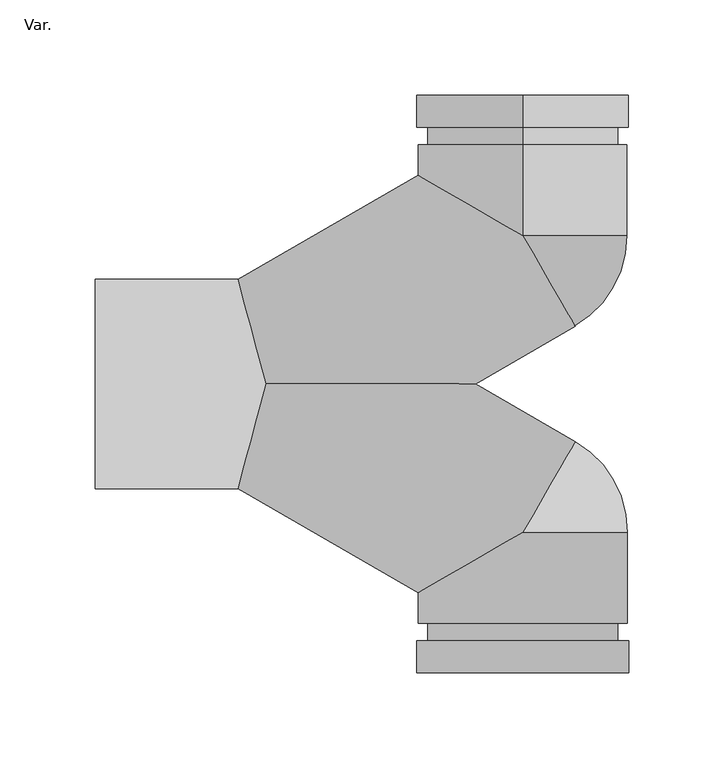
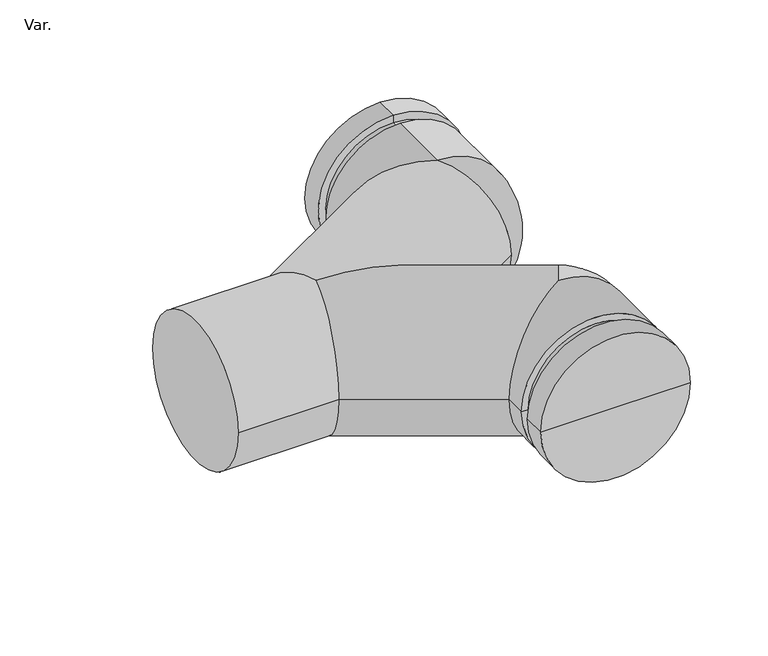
"""IFC4 building model written with IfcOpenShell, lengths in millimetres: pipe fitting geometry, PIF_HDPE double wall lavatory bend vertical_Akatherm : Var.."""

from ifc_helpers import new_model, si_unit, point, frame, origin, place, context, project, spatial, circle_curve, ellipse_curve, trimmed, source, transform, mapped, element, save
from ifc_brep_helpers import plane_surface, cylinder_surface, revolved_surface, advanced_brep


def var_47216052(model_context):
    return source(origin(), model_context, "Body", "AdvancedBrep", [
        advanced_brep(
        [(135.0, -77.9422863, 55.0), (162.5, -30.3108891, 0.0), (110.0, 0.0, 0.0), (0.0, 0.0, 55.0), (-14.7372056, -55.0, 0.0), (80.0, -109.6965511, 0.0), (135.0, -77.9422863, -55.0), (0.0, 0.0, -55.0), (190.0, -77.9422863, 0.0), (79.25, -151.9422863, 0.0), (190.75, -151.9422863, 0.0), (135.0, -151.9422863, 0.0), (79.25, -134.9422863, 0.0), (190.75, -134.9422863, 0.0), (85.0, -134.9422863, 0.0), (185.0, -134.9422863, 0.0), (85.0, -125.9422863, 0.0), (185.0, -125.9422863, 0.0), (80.0, -125.9422863, 0.0), (190.0, -125.9422863, 0.0), (162.5, 30.3108891, 0.0), (135.0, 77.9422863, 55.0), (80.0, 109.6965511, 0.0), (-14.7372056, 55.0, 0.0), (135.0, 77.9422863, -55.0), (135.0, 125.9422863, 55.0), (135.0, 125.9422863, -55.0), (135.0, 125.9422863, 50.0), (135.0, 125.9422863, -50.0), (135.0, 134.9422863, 50.0), (135.0, 134.9422863, -50.0), (135.0, 134.9422863, 55.75), (135.0, 134.9422863, -55.75), (135.0, 151.9422863, 55.75), (135.0, 151.9422863, -55.75), (135.0, 151.9422863, 0.0), (-90.0, 55.0, 0.0), (-90.0, -55.0, 0.0)],
        [
            (0, 1, circle_curve(frame((135.0, -77.9422863, 0.0), z_axis=(-0.8660254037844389, 0.4999999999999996, 0.0), x_axis=(0.4999999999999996, 0.8660254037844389, 0.0)), 55.0)),
            (1, 2),
            (2, 3, ellipse_curve(frame((0.0, 0.0, 0.0), z_axis=(0.0, -1.0, 0.0), x_axis=(-1.0, 0.0, 0.0)), 110.0, 55.0)),
            (3, 4, ellipse_curve(frame((0.0, 0.0, 0.0), z_axis=(0.9659258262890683, -0.2588190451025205, 0.0), x_axis=(0.25881904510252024, 0.9659258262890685, 0.0)), 56.9401899, 55.0)),
            (4, 5),
            (5, 0, ellipse_curve(frame((135.0, -77.9422863, 0.0), z_axis=(-0.5000000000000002, 0.8660254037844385, 0.0), x_axis=(-0.8660254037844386, -0.5000000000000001, 0.0)), 63.5085296, 55.0)),
            (1, 6, circle_curve(frame((135.0, -77.9422863, 0.0), z_axis=(-0.8660254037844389, 0.4999999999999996, 0.0), x_axis=(0.4999999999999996, 0.8660254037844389, 0.0)), 55.0)),
            (6, 5, ellipse_curve(frame((135.0, -77.9422863, 0.0), z_axis=(-0.5000000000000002, 0.8660254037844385, 0.0), x_axis=(-0.8660254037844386, -0.5000000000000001, 0.0)), 63.5085296, 55.0)),
            (4, 7, ellipse_curve(frame((0.0, 0.0, 0.0), z_axis=(0.9659258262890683, -0.2588190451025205, 0.0), x_axis=(0.25881904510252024, 0.9659258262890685, 0.0)), 56.9401899, 55.0)),
            (7, 2, ellipse_curve(frame((0.0, 0.0, 0.0), z_axis=(0.0, -1.0, 0.0), x_axis=(-1.0, 0.0, 0.0)), 110.0, 55.0)),
            (0, 8, circle_curve(frame((135.0, -77.9422863, 0.0), z_axis=(0.0, 1.0, 0.0), x_axis=(0.0, 0.0, 1.0)), 55.0)),
            (8, 6, circle_curve(frame((135.0, -77.9422863, 0.0), z_axis=(0.0, 1.0, 0.0), x_axis=(0.0, 0.0, 1.0)), 55.0)),
            (9, 10, circle_curve(frame((135.0, -151.9422863, 0.0), z_axis=(0.0, -1.0, 0.0), x_axis=(1.0, 0.0, 0.0)), 55.75)),
            (10, 11),
            (11, 9),
            (10, 9, circle_curve(frame((135.0, -151.9422863, 0.0), z_axis=(0.0, -1.0, 0.0), x_axis=(1.0, 0.0, 0.0)), 55.75)),
            (9, 12),
            (12, 13, circle_curve(frame((135.0, -134.9422863, 0.0), z_axis=(0.0, -1.0, 0.0), x_axis=(1.0, 0.0, 0.0)), 55.75)),
            (13, 10),
            (13, 12, circle_curve(frame((135.0, -134.9422863, 0.0), z_axis=(0.0, -1.0, 0.0), x_axis=(1.0, 0.0, 0.0)), 55.75)),
            (12, 14),
            (14, 15, circle_curve(frame((135.0, -134.9422863, 0.0), z_axis=(0.0, -1.0, 0.0), x_axis=(1.0, 0.0, 0.0)), 50.0)),
            (15, 13),
            (15, 14, circle_curve(frame((135.0, -134.9422863, 0.0), z_axis=(0.0, -1.0, 0.0), x_axis=(1.0, 0.0, 0.0)), 50.0)),
            (14, 16),
            (16, 17, circle_curve(frame((135.0, -125.9422863, 0.0), z_axis=(0.0, -1.0, 0.0), x_axis=(1.0, 0.0, 0.0)), 50.0)),
            (17, 15),
            (17, 16, circle_curve(frame((135.0, -125.9422863, 0.0), z_axis=(0.0, -1.0, 0.0), x_axis=(1.0, 0.0, 0.0)), 50.0)),
            (16, 18),
            (18, 19, circle_curve(frame((135.0, -125.9422863, 0.0), z_axis=(0.0, -1.0, 0.0), x_axis=(1.0, 0.0, 0.0)), 55.0)),
            (19, 17),
            (19, 18, circle_curve(frame((135.0, -125.9422863, 0.0), z_axis=(0.0, -1.0, 0.0), x_axis=(1.0, 0.0, 0.0)), 55.0)),
            (18, 5),
            (8, 19),
            (2, 20),
            (20, 21, circle_curve(frame((135.0, 77.9422863, 0.0), z_axis=(-0.8660254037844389, -0.4999999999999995, 0.0), x_axis=(-0.4999999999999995, 0.8660254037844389, 0.0)), 55.0)),
            (21, 22, ellipse_curve(frame((135.0, 77.9422863, 0.0), z_axis=(-0.5000000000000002, -0.8660254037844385, 0.0), x_axis=(-0.8660254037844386, 0.5, 0.0)), 63.5085296, 55.0)),
            (22, 23),
            (23, 3, ellipse_curve(frame((0.0, 0.0, 0.0), z_axis=(0.9659258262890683, 0.25881904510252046, 0.0), x_axis=(0.25881904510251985, -0.9659258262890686, 0.0)), 56.9401899, 55.0)),
            (7, 23, ellipse_curve(frame((0.0, 0.0, 0.0), z_axis=(0.9659258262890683, 0.25881904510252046, 0.0), x_axis=(0.25881904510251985, -0.9659258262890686, 0.0)), 56.9401899, 55.0)),
            (22, 24, ellipse_curve(frame((135.0, 77.9422863, 0.0), z_axis=(-0.5000000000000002, -0.8660254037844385, 0.0), x_axis=(-0.8660254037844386, 0.5, 0.0)), 63.5085296, 55.0)),
            (24, 20, circle_curve(frame((135.0, 77.9422863, 0.0), z_axis=(-0.8660254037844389, -0.4999999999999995, 0.0), x_axis=(-0.4999999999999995, 0.8660254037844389, 0.0)), 55.0)),
            (24, 21, circle_curve(frame((135.0, 77.9422863, 0.0), z_axis=(0.0, -1.0, 0.0), x_axis=(0.0, 0.0, 1.0)), 55.0)),
            (25, 26, circle_curve(frame((135.0, 125.9422863, 0.0), z_axis=(0.0, -1.0, 0.0), x_axis=(0.0, 0.0, -1.0)), 55.0)),
            (26, 24),
            (21, 25),
            (26, 25, circle_curve(frame((135.0, 125.9422863, 0.0), z_axis=(0.0, -1.0, 0.0), x_axis=(0.0, 0.0, -1.0)), 55.0)),
            (25, 27),
            (27, 28, circle_curve(frame((135.0, 125.9422863, 0.0), z_axis=(0.0, -1.0, 0.0), x_axis=(0.0, 0.0, -1.0)), 50.0)),
            (28, 26),
            (28, 27, circle_curve(frame((135.0, 125.9422863, 0.0), z_axis=(0.0, -1.0, 0.0), x_axis=(0.0, 0.0, -1.0)), 50.0)),
            (27, 29),
            (29, 30, circle_curve(frame((135.0, 134.9422863, 0.0), z_axis=(0.0, -1.0, 0.0), x_axis=(0.0, 0.0, -1.0)), 50.0)),
            (30, 28),
            (30, 29, circle_curve(frame((135.0, 134.9422863, 0.0), z_axis=(0.0, -1.0, 0.0), x_axis=(0.0, 0.0, -1.0)), 50.0)),
            (29, 31),
            (31, 32, circle_curve(frame((135.0, 134.9422863, 0.0), z_axis=(0.0, -1.0, 0.0), x_axis=(0.0, 0.0, -1.0)), 55.75)),
            (32, 30),
            (32, 31, circle_curve(frame((135.0, 134.9422863, 0.0), z_axis=(0.0, -1.0, 0.0), x_axis=(0.0, 0.0, -1.0)), 55.75)),
            (31, 33),
            (33, 34, circle_curve(frame((135.0, 151.9422863, 0.0), z_axis=(0.0, -1.0, 0.0), x_axis=(0.0, 0.0, -1.0)), 55.75)),
            (34, 32),
            (34, 33, circle_curve(frame((135.0, 151.9422863, 0.0), z_axis=(0.0, -1.0, 0.0), x_axis=(0.0, 0.0, -1.0)), 55.75)),
            (33, 35),
            (35, 34),
            (36, 37, circle_curve(frame((-90.0, 0.0, 0.0), z_axis=(-1.0, 0.0, 0.0), x_axis=(0.0, -1.0, 0.0)), 55.0)),
            (37, 36, circle_curve(frame((-90.0, 0.0, 0.0), z_axis=(-1.0, 0.0, 0.0), x_axis=(0.0, -1.0, 0.0)), 55.0)),
            (37, 4),
            (23, 36),
        ],
        [
            cylinder_surface(frame((0.0, 0.0, 0.0), z_axis=(-0.8660254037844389, 0.4999999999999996, 0.0), x_axis=(0.4999999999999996, 0.8660254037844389, 0.0)), 55.0),
            revolved_surface(trimmed(ellipse_curve(frame((135.0, -77.9422863, 0.0), z_axis=(0.0, 1.0, 0.0), x_axis=(0.0, 0.0, 1.0)), 55.0, 55.0), [point((135.0, -77.9422863, 55.0))], [point((135.0, -77.9422863, -55.0))], True, "CARTESIAN"), (135.0, -77.9422863, -73.5083951), (0.0, 0.0, -1.0)),
            plane_surface(frame((135.0, -151.9422863, 0.0), z_axis=(0.0, -1.0, 0.0), x_axis=(1.0, 0.0, 0.0))),
            cylinder_surface(frame((135.0, -77.9422863, 0.0), z_axis=(0.0, 1.0, 0.0), x_axis=(1.0, 0.0, 0.0)), 55.75),
            plane_surface(frame((135.0, -134.9422863, 0.0), z_axis=(0.0, 1.0, 0.0), x_axis=(1.0, 0.0, 0.0))),
            cylinder_surface(frame((135.0, -77.9422863, 0.0), z_axis=(0.0, 1.0, 0.0), x_axis=(1.0, 0.0, 0.0)), 50.0),
            plane_surface(frame((135.0, -125.9422863, 0.0), z_axis=(0.0, -1.0, 0.0), x_axis=(1.0, 0.0, 0.0))),
            cylinder_surface(frame((135.0, -77.9422863, 0.0), z_axis=(0.0, 1.0, 0.0), x_axis=(1.0, 0.0, 0.0)), 55.0),
            cylinder_surface(frame((0.0, 0.0, 0.0), z_axis=(-0.8660254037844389, -0.4999999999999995, 0.0), x_axis=(-0.4999999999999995, 0.8660254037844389, 0.0)), 55.0),
            revolved_surface(trimmed(ellipse_curve(frame((135.0, 77.9422863, 0.0), z_axis=(0.0, -1.0, 0.0), x_axis=(0.0, 0.0, 1.0)), 55.0, 55.0), [point((135.0, 77.9422863, -55.0))], [point((135.0, 77.9422863, 55.0))], True, "CARTESIAN"), (135.0, 77.9422863, -78.0406927), (0.0, 0.0, 1.0)),
            cylinder_surface(frame((135.0, 77.9422863, 0.0), z_axis=(0.0, 1.0, 0.0), x_axis=(0.0, 0.0, -1.0)), 55.0),
            plane_surface(frame((135.0, 125.9422863, 0.0), z_axis=(0.0, 1.0, 0.0), x_axis=(0.0, 0.0, -1.0))),
            cylinder_surface(frame((135.0, 77.9422863, 0.0), z_axis=(0.0, 1.0, 0.0), x_axis=(0.0, 0.0, -1.0)), 50.0),
            plane_surface(frame((135.0, 134.9422863, 0.0), z_axis=(0.0, -1.0, 0.0), x_axis=(0.0, 0.0, -1.0))),
            cylinder_surface(frame((135.0, 77.9422863, 0.0), z_axis=(0.0, 1.0, 0.0), x_axis=(0.0, 0.0, -1.0)), 55.75),
            plane_surface(frame((135.0, 151.9422863, 0.0), z_axis=(0.0, 1.0, 0.0), x_axis=(0.0, 0.0, -1.0))),
            plane_surface(frame((-90.0, 0.0, 0.0), z_axis=(-1.0, 0.0, 0.0), x_axis=(0.0, 0.0, 1.0))),
            cylinder_surface(frame((0.0, 0.0, 0.0), z_axis=(1.0, 0.0, 0.0), x_axis=(0.0, -1.0, 0.0)), 55.0),
        ],
        [
            (0, [[1, 2, 3, 4, 5, 6]]),
            (0, [[7, 8, -5, 9, 10, -2]]),
            (1, [[-1, 11, 12, -7]]),
            (2, [[13, 14, 15]]),
            (2, [[-14, 16, -15]]),
            (3, [[-13, 17, 18, 19]]),
            (3, [[-16, -19, 20, -17]]),
            (4, [[-18, 21, 22, 23]]),
            (4, [[-20, -23, 24, -21]]),
            (5, [[-22, 25, 26, 27]]),
            (5, [[-24, -27, 28, -25]]),
            (6, [[-26, 29, 30, 31]]),
            (6, [[-28, -31, 32, -29]]),
            (7, [[-30, 33, -8, -12, 34]]),
            (7, [[-32, -34, -11, -6, -33]]),
            (8, [[35, 36, 37, 38, 39, -3]]),
            (8, [[-35, -10, 40, -38, 41, 42]]),
            (9, [[-36, -42, 43]]),
            (10, [[44, 45, -41, -37, 46]]),
            (10, [[-45, 47, -46, -43]]),
            (11, [[-44, 48, 49, 50]]),
            (11, [[-47, -50, 51, -48]]),
            (12, [[-49, 52, 53, 54]]),
            (12, [[-51, -54, 55, -52]]),
            (13, [[-53, 56, 57, 58]]),
            (13, [[-55, -58, 59, -56]]),
            (14, [[-57, 60, 61, 62]]),
            (14, [[-59, -62, 63, -60]]),
            (15, [[-61, 64, 65]]),
            (15, [[-63, -65, -64]]),
            (16, [[66, 67]]),
            (17, [[-67, 68, -4, -39, 69]]),
            (17, [[-66, -69, -40, -9, -68]]),
        ],
    ),
    ])


if __name__ == "__main__":
    model = new_model("IFC4")
    model_context = context("Model", 3, world=origin())
    ifc_project = project(units=[si_unit("LENGTHUNIT", "METRE", prefix="MILLI")], contexts=[model_context])
    site = spatial("IfcSite", under=ifc_project)
    building = spatial("IfcBuilding", under=site)
    placement = place(None, origin())
    var_shape = var_47216052(model_context)
    element("IfcPipeFitting", 1, ObjectType="PIF_HDPE double wall lavatory bend vertical_Akatherm : Var.", at=placement, inside=building, context=model_context, shape_type="MappedRepresentation", body=[
        mapped(var_shape, transform((0.0, 0.0, 0.0), x_axis=(1.0, 0.0, 0.0), y_axis=(0.0, 1.0, 0.0), z_axis=(0.0, 0.0, 1.0))),
    ])
    save(model, "model.ifc")
